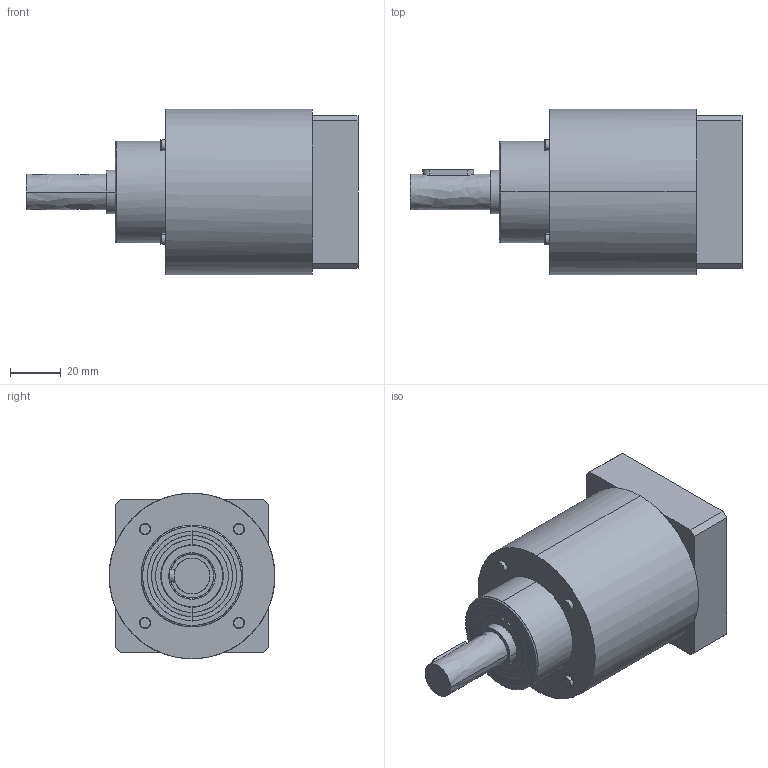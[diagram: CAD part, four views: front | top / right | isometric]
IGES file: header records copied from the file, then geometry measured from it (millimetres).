
Start section: Comment
Global section: file name: HTRG06N___MHN23106JC_1STAGE.igs; native system:  By UGS Corp.; preprocessor: XPlus GENERIC/IGES 3.0; author: Author; organization: Title; date: 20090507.155358; units: millimetre
Bounding box: 130.25 x 64.97 x 65 mm (x, y, z)
Surface area: 37686.5 mm2 (no closed solid volume)
Topology: 0 solids, 0 shells, 143 faces, 646 edges, 638 vertices
Faces by surface type: bspline 143
